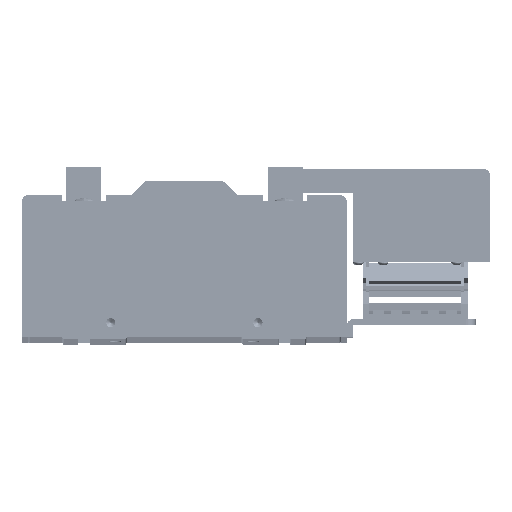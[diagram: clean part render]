
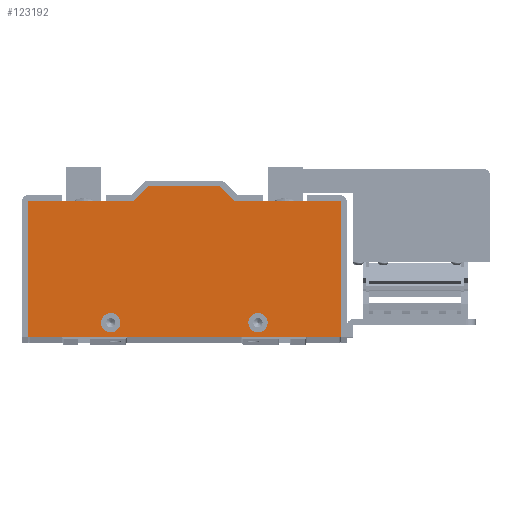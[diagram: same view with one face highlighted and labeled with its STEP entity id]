
A CAD part, top view. The second image highlights one B-rep face of the part: STEP entity #123192.
In plain terms, the highlighted planar face has unit normal (0, 0, 1).
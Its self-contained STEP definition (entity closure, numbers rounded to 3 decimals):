
#5292 = VERTEX_POINT ( 'NONE', #132221 ) ;
#27316 = CARTESIAN_POINT ( 'NONE',  ( -45.25, -29., 9.525 ) ) ;
#27819 = CARTESIAN_POINT ( 'NONE',  ( 34.75, -29., 9.525 ) ) ;
#27936 = CARTESIAN_POINT ( 'NONE',  ( -34.75, -29., 9.525 ) ) ;
#27937 = DIRECTION ( 'NONE',  ( 1., 0., 0. ) ) ;
#27940 = DIRECTION ( 'NONE',  ( 0., 0., 1. ) ) ;
#27942 = CARTESIAN_POINT ( 'NONE',  ( -40., -29., 9.525 ) ) ;
#27943 = AXIS2_PLACEMENT_3D ( 'NONE', #27942, #27940, #27937 ) ;
#27944 = CIRCLE ( 'NONE', #27943, 5.25 ) ;
#27996 = CARTESIAN_POINT ( 'NONE',  ( -85., 37., 9.525 ) ) ;
#27998 = DIRECTION ( 'NONE',  ( 0., -1., 0. ) ) ;
#28000 = VECTOR ( 'NONE', #27998, 1000. ) ;
#28002 = CARTESIAN_POINT ( 'NONE',  ( -85., 37., 9.525 ) ) ;
#28004 = LINE ( 'NONE', #28002, #28000 ) ;
#28021 = CARTESIAN_POINT ( 'NONE',  ( -85., -37., 9.525 ) ) ;
#28109 = CARTESIAN_POINT ( 'NONE',  ( 45.25, -29., 9.525 ) ) ;
#28113 = DIRECTION ( 'NONE',  ( 1., 0., 0. ) ) ;
#28115 = DIRECTION ( 'NONE',  ( 0., 0., 1. ) ) ;
#28117 = CARTESIAN_POINT ( 'NONE',  ( 40., -29., 9.525 ) ) ;
#28118 = AXIS2_PLACEMENT_3D ( 'NONE', #28117, #28115, #28113 ) ;
#28120 = CIRCLE ( 'NONE', #28118, 5.25 ) ;
#28213 = CARTESIAN_POINT ( 'NONE',  ( 85., -37., 9.525 ) ) ;
#28353 = DIRECTION ( 'NONE',  ( 1., 0., 0. ) ) ;
#28354 = VECTOR ( 'NONE', #28353, 1000. ) ;
#28357 = CARTESIAN_POINT ( 'NONE',  ( -85., -37., 9.525 ) ) ;
#28359 = LINE ( 'NONE', #28357, #28354 ) ;
#28377 = DIRECTION ( 'NONE',  ( -1., 0., 0. ) ) ;
#28378 = VECTOR ( 'NONE', #28377, 1000. ) ;
#28380 = CARTESIAN_POINT ( 'NONE',  ( 27.5, 37., 9.525 ) ) ;
#28381 = LINE ( 'NONE', #28380, #28378 ) ;
#28450 = DIRECTION ( 'NONE',  ( 0., 1., 0. ) ) ;
#28452 = VECTOR ( 'NONE', #28450, 1000. ) ;
#28455 = CARTESIAN_POINT ( 'NONE',  ( 85., 37., 9.525 ) ) ;
#28456 = LINE ( 'NONE', #28455, #28452 ) ;
#28485 = CARTESIAN_POINT ( 'NONE',  ( 85., 37., 9.525 ) ) ;
#28617 = CARTESIAN_POINT ( 'NONE',  ( 19.5, 45., 9.525 ) ) ;
#28748 = DIRECTION ( 'NONE',  ( -0.707, 0.707, 0. ) ) ;
#28750 = VECTOR ( 'NONE', #28748, 1000. ) ;
#28752 = CARTESIAN_POINT ( 'NONE',  ( 19.5, 45., 9.525 ) ) ;
#28753 = LINE ( 'NONE', #28752, #28750 ) ;
#28844 = CARTESIAN_POINT ( 'NONE',  ( -19.5, 45., 9.525 ) ) ;
#28969 = DIRECTION ( 'NONE',  ( -1., 0., 0. ) ) ;
#28971 = VECTOR ( 'NONE', #28969, 1000. ) ;
#28972 = CARTESIAN_POINT ( 'NONE',  ( -19.5, 45., 9.525 ) ) ;
#28973 = LINE ( 'NONE', #28972, #28971 ) ;
#30036 = DIRECTION ( 'NONE',  ( -0.707, -0.707, 0. ) ) ;
#30037 = VECTOR ( 'NONE', #30036, 1000. ) ;
#30038 = CARTESIAN_POINT ( 'NONE',  ( -27.5, 37., 9.525 ) ) ;
#30040 = LINE ( 'NONE', #30038, #30037 ) ;
#30045 = CARTESIAN_POINT ( 'NONE',  ( -27.5, 37., 9.525 ) ) ;
#30062 = DIRECTION ( 'NONE',  ( 1., 0., 0. ) ) ;
#30064 = DIRECTION ( 'NONE',  ( 0., 0., 1. ) ) ;
#30065 = CARTESIAN_POINT ( 'NONE',  ( -40., -29., 9.525 ) ) ;
#30066 = AXIS2_PLACEMENT_3D ( 'NONE', #30065, #30064, #30062 ) ;
#30067 = CIRCLE ( 'NONE', #30066, 5.25 ) ;
#30159 = DIRECTION ( 'NONE',  ( 1., 0., 0. ) ) ;
#30160 = DIRECTION ( 'NONE',  ( 0., 0., 1. ) ) ;
#30161 = CARTESIAN_POINT ( 'NONE',  ( -85., 37., 9.525 ) ) ;
#30162 = AXIS2_PLACEMENT_3D ( 'NONE', #30161, #30160, #30159 ) ;
#30163 = PLANE ( 'NONE',  #30162 ) ;
#30166 = FACE_OUTER_BOUND ( 'NONE', #123157, .T. ) ;
#30167 = FACE_BOUND ( 'NONE', #123120, .T. ) ;
#30168 = FACE_BOUND ( 'NONE', #123194, .T. ) ;
#30175 = DIRECTION ( 'NONE',  ( -1., 0., 0. ) ) ;
#30176 = VECTOR ( 'NONE', #30175, 1000. ) ;
#30177 = CARTESIAN_POINT ( 'NONE',  ( -85., 37., 9.525 ) ) ;
#30178 = LINE ( 'NONE', #30177, #30176 ) ;
#30231 = CARTESIAN_POINT ( 'NONE',  ( 40., -29., 9.525 ) ) ;
#30305 = DIRECTION ( 'NONE',  ( 1., 0., 0. ) ) ;
#30306 = DIRECTION ( 'NONE',  ( 0., 0., 1. ) ) ;
#30308 = AXIS2_PLACEMENT_3D ( 'NONE', #30231, #30306, #30305 ) ;
#30309 = CIRCLE ( 'NONE', #30308, 5.25 ) ;
#122184 = VERTEX_POINT ( 'NONE', #27316 ) ;
#122330 = VERTEX_POINT ( 'NONE', #27819 ) ;
#122337 = EDGE_CURVE ( 'NONE', #122184, #122338, #27944, .T. ) ;
#122338 = VERTEX_POINT ( 'NONE', #27936 ) ;
#122351 = VERTEX_POINT ( 'NONE', #28021 ) ;
#122357 = EDGE_CURVE ( 'NONE', #122359, #122351, #28004, .T. ) ;
#122359 = VERTEX_POINT ( 'NONE', #27996 ) ;
#122362 = EDGE_CURVE ( 'NONE', #122330, #122365, #28120, .T. ) ;
#122365 = VERTEX_POINT ( 'NONE', #28109 ) ;
#122415 = VERTEX_POINT ( 'NONE', #28213 ) ;
#122420 = EDGE_CURVE ( 'NONE', #122351, #122415, #28359, .T. ) ;
#122457 = EDGE_CURVE ( 'NONE', #122472, #5292, #28381, .T. ) ;
#122472 = VERTEX_POINT ( 'NONE', #28485 ) ;
#122478 = EDGE_CURVE ( 'NONE', #122415, #122472, #28456, .T. ) ;
#122513 = VERTEX_POINT ( 'NONE', #28617 ) ;
#122518 = EDGE_CURVE ( 'NONE', #5292, #122513, #28753, .T. ) ;
#122574 = VERTEX_POINT ( 'NONE', #28844 ) ;
#122578 = EDGE_CURVE ( 'NONE', #122513, #122574, #28973, .T. ) ;
#123117 = EDGE_CURVE ( 'NONE', #122338, #122184, #30067, .T. ) ;
#123120 = EDGE_LOOP ( 'NONE', ( #123245, #123156 ) ) ;
#123123 = VERTEX_POINT ( 'NONE', #30045 ) ;
#123128 = EDGE_CURVE ( 'NONE', #122574, #123123, #30040, .T. ) ;
#123156 = ORIENTED_EDGE ( 'NONE', *, *, #122362, .F. ) ;
#123157 = EDGE_LOOP ( 'NONE', ( #123159, #123163, #123165, #123167, #123169, #123171, #123173, #123211 ) ) ;
#123159 = ORIENTED_EDGE ( 'NONE', *, *, #122357, .T. ) ;
#123163 = ORIENTED_EDGE ( 'NONE', *, *, #122420, .T. ) ;
#123165 = ORIENTED_EDGE ( 'NONE', *, *, #122478, .T. ) ;
#123167 = ORIENTED_EDGE ( 'NONE', *, *, #122457, .T. ) ;
#123169 = ORIENTED_EDGE ( 'NONE', *, *, #122518, .T. ) ;
#123171 = ORIENTED_EDGE ( 'NONE', *, *, #122578, .T. ) ;
#123173 = ORIENTED_EDGE ( 'NONE', *, *, #123128, .T. ) ;
#123188 = EDGE_CURVE ( 'NONE', #123123, #122359, #30178, .T. ) ;
#123192 = ADVANCED_FACE ( 'NONE', ( #30168, #30167, #30166 ), #30163, .T. ) ;
#123194 = EDGE_LOOP ( 'NONE', ( #123196, #123242 ) ) ;
#123196 = ORIENTED_EDGE ( 'NONE', *, *, #123117, .F. ) ;
#123211 = ORIENTED_EDGE ( 'NONE', *, *, #123188, .T. ) ;
#123242 = ORIENTED_EDGE ( 'NONE', *, *, #122337, .F. ) ;
#123245 = ORIENTED_EDGE ( 'NONE', *, *, #123247, .F. ) ;
#123247 = EDGE_CURVE ( 'NONE', #122365, #122330, #30309, .T. ) ;
#132221 = CARTESIAN_POINT ( 'NONE',  ( 27.5, 37., 9.525 ) ) ;
